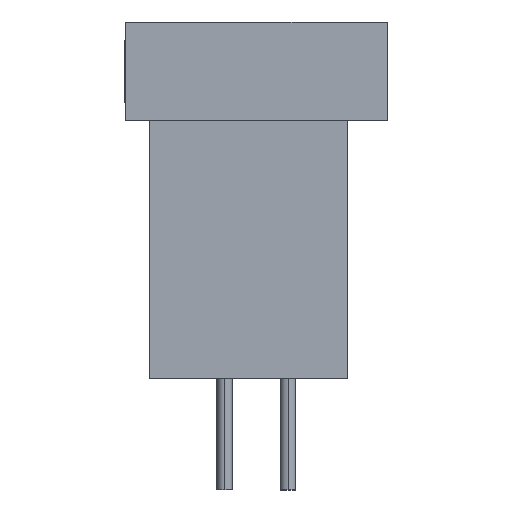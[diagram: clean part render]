
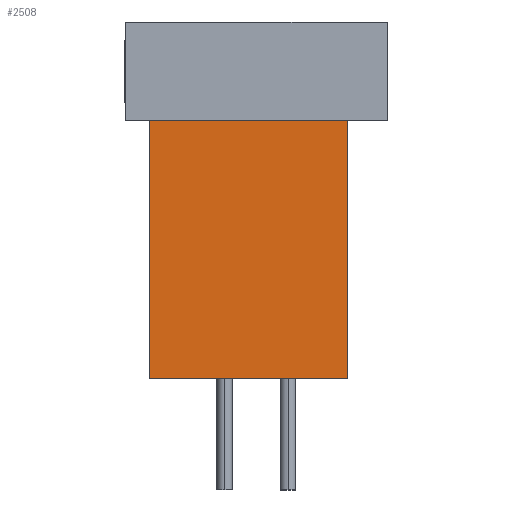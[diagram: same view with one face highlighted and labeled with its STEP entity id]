
A CAD part, left-side view. The second image highlights one B-rep face of the part: STEP entity #2508.
In plain terms, the highlighted planar face has unit normal (-1, 0, 0).
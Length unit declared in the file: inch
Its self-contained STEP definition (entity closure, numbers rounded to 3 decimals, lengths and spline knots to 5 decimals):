
#585 = VECTOR ( 'NONE', #5269, 39.37008 ) ;
#857 = CARTESIAN_POINT ( 'NONE',  ( -0.6625, 0.0675, -0.062 ) ) ;
#2508 = ADVANCED_FACE ( 'NONE', ( #11975 ), #30233, .T. ) ;
#4698 = LINE ( 'NONE', #18935, #585 ) ;
#4819 = DIRECTION ( 'NONE',  ( 0., -1., 0. ) ) ;
#5269 = DIRECTION ( 'NONE',  ( 0., -1., 0. ) ) ;
#8018 = VERTEX_POINT ( 'NONE', #38019 ) ;
#8374 = ORIENTED_EDGE ( 'NONE', *, *, #9396, .T. ) ;
#9396 = EDGE_CURVE ( 'NONE', #57816, #47839, #4698, .T. ) ;
#11975 = FACE_OUTER_BOUND ( 'NONE', #20713, .T. ) ;
#13504 = DIRECTION ( 'NONE',  ( 0., 0., 1. ) ) ;
#16904 = VECTOR ( 'NONE', #58553, 39.37008 ) ;
#17763 = CARTESIAN_POINT ( 'NONE',  ( -0.6625, 0.0675, -0.225 ) ) ;
#18935 = CARTESIAN_POINT ( 'NONE',  ( -0.6625, 0.0675, -0.225 ) ) ;
#20713 = EDGE_LOOP ( 'NONE', ( #38997, #48958, #8374, #42721 ) ) ;
#22555 = EDGE_CURVE ( 'NONE', #57816, #8018, #30232, .T. ) ;
#24220 = LINE ( 'NONE', #857, #45466 ) ;
#24547 = EDGE_CURVE ( 'NONE', #8018, #38824, #24220, .T. ) ;
#25260 = CARTESIAN_POINT ( 'NONE',  ( -0.6625, 0.0675, -0.225 ) ) ;
#25676 = DIRECTION ( 'NONE',  ( -1., 0., 0. ) ) ;
#30037 = EDGE_CURVE ( 'NONE', #47839, #38824, #34253, .T. ) ;
#30232 = LINE ( 'NONE', #17763, #41340 ) ;
#30233 = PLANE ( 'NONE',  #55995 ) ;
#34253 = LINE ( 'NONE', #48534, #16904 ) ;
#38019 = CARTESIAN_POINT ( 'NONE',  ( -0.6625, 0.0675, -0.062 ) ) ;
#38824 = VERTEX_POINT ( 'NONE', #49735 ) ;
#38997 = ORIENTED_EDGE ( 'NONE', *, *, #24547, .F. ) ;
#39019 = CARTESIAN_POINT ( 'NONE',  ( -0.6625, -0.0575, -0.225 ) ) ;
#41340 = VECTOR ( 'NONE', #13504, 39.37008 ) ;
#42721 = ORIENTED_EDGE ( 'NONE', *, *, #30037, .T. ) ;
#44560 = CARTESIAN_POINT ( 'NONE',  ( -0.6625, 0.0675, -0.225 ) ) ;
#45466 = VECTOR ( 'NONE', #4819, 39.37008 ) ;
#47839 = VERTEX_POINT ( 'NONE', #39019 ) ;
#48534 = CARTESIAN_POINT ( 'NONE',  ( -0.6625, -0.0575, -0.225 ) ) ;
#48958 = ORIENTED_EDGE ( 'NONE', *, *, #22555, .F. ) ;
#49735 = CARTESIAN_POINT ( 'NONE',  ( -0.6625, -0.0575, -0.062 ) ) ;
#54256 = DIRECTION ( 'NONE',  ( 0., 0., 1. ) ) ;
#55995 = AXIS2_PLACEMENT_3D ( 'NONE', #44560, #25676, #54256 ) ;
#57816 = VERTEX_POINT ( 'NONE', #25260 ) ;
#58553 = DIRECTION ( 'NONE',  ( 0., 0., 1. ) ) ;
